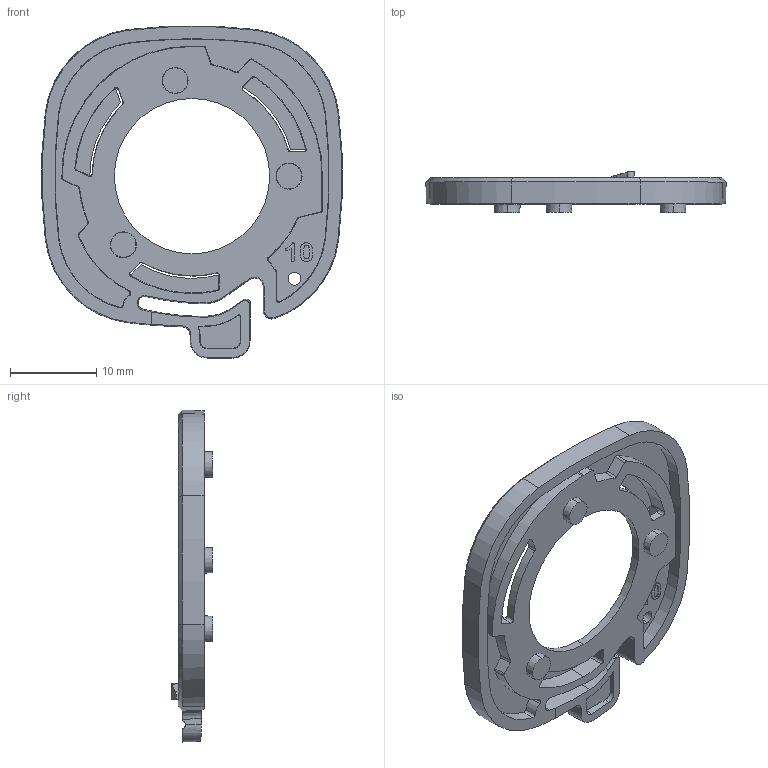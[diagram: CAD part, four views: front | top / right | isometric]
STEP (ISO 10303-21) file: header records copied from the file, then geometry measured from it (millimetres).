
FILE_DESCRIPTION (( 'STEP AP214' ), '1' );
FILE_NAME ('SENSW-REV10 - mounting bracket for molding - with stubs.STEP', '2024-07-04T13:03:05', ( '' ), ( '' ), 'SwSTEP 2.0', 'SolidWorks 2024', '' );
FILE_SCHEMA (( 'AUTOMOTIVE_DESIGN' ));
Length unit declared in the file: millimetre
Products named in the file (1): SENSW-REV10 - mounting bracket for molding - with stubs
Bounding box: 34.79 x 4.8 x 38.46 mm (x, y, z)
Volume: 1538.6 mm3; surface area: 2616.1 mm2
Topology: 1 solids, 1 shells, 190 faces, 534 edges, 352 vertices
Faces by surface type: cone 69, plane 58, bspline 55, cylinder 8
Entity records: 7984 total; most frequent: CARTESIAN_POINT 3580, ORIENTED_EDGE 1068, DIRECTION 708, EDGE_CURVE 534, VERTEX_POINT 352, AXIS2_PLACEMENT_3D 264, EDGE_LOOP 206, B_SPLINE_CURVE_WITH_KNOTS 202
